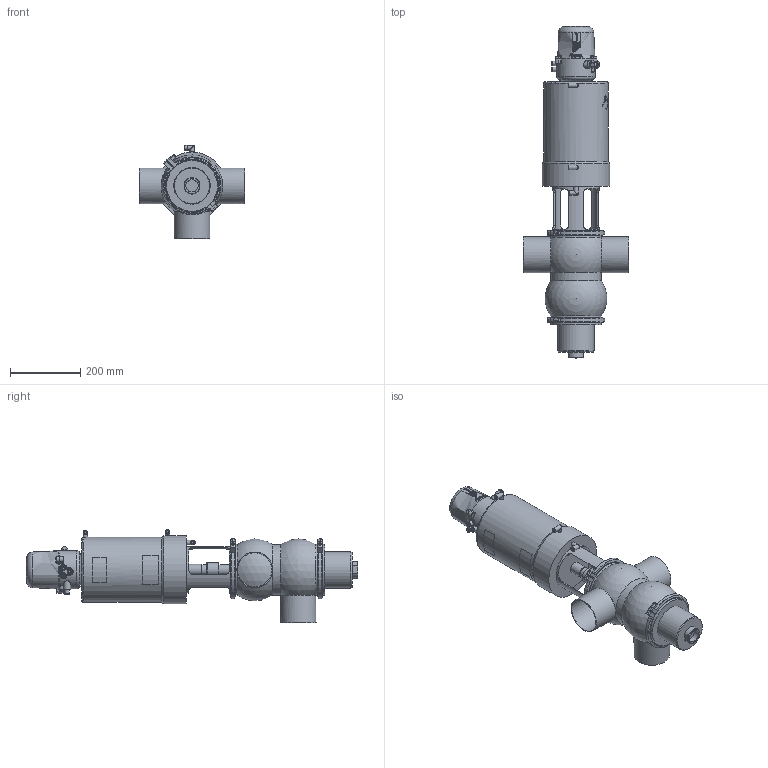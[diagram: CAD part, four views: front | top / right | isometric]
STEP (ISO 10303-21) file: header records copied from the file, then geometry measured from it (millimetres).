
FILE_DESCRIPTION (( 'STEP AP214' ), '1' );
FILE_NAME ('INNOVA P AB-90 W OD 4 & C-TOP S_10.250.16.0011.STEP', '2024-08-09T12:28:44', ( '' ), ( '' ), 'SwSTEP 2.0', 'SolidWorks 2023', '' );
FILE_SCHEMA (( 'AUTOMOTIVE_DESIGN' ));
Length unit declared in the file: millimetre
Products named in the file (7): 10.250.15.0002_Type P T3; INNOVA P AB-90 W OD 4 & C-TOP S_10.250.16.0011; 10.240.15.0001_DN 100; 10.250.15.0003_DN 4"; 10.426.15.0001_C-TOP S - 3 EV; 10.251.15.0003_OD 4"; 10.250.15.0001_OD 4"
Assembly tree (7 placements, depth 2):
  INNOVA P AB-90 W OD 4 & C-TOP S_10.250.16.0011
    10.250.15.0001_OD 4"
    10.250.15.0002_Type P T3
    10.426.15.0001_C-TOP S - 3 EV
    10.251.15.0003_OD 4"
    10.240.15.0001_DN 100  x2
    10.250.15.0003_DN 4"
Bounding box: 300 x 945.6 x 265 mm (x, y, z)
Volume: 16306979.9 mm3; surface area: 879781.1 mm2
Topology: 7 solids, 7 shells, 1207 faces, 2919 edges, 1941 vertices
Faces by surface type: plane 413, cylinder 385, cone 204, bspline 162, torus 33, sphere 10
Full cylindrical faces by diameter (mm): 0.371 x17, 0.512 x16, 0.658 x16, 0.795 x16, 0.94 x15, 1.098 x15, 1.241 x13, 1.382 x13, 1.523 x11, 1.669 x10, 2.201 x1, 4.2 x2, 5 x1, 5.5 x2, 6 x4, 6.15 x3, 8 x5, 10 x1, 10.5 x3, 11 x4, 12.5 x9, 13 x6, 13.5 x2, 17 x3, 20 x2, 22 x2, 30.5 x2, 32 x1, 35 x1, 41 x1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
Entity records: 60161 total; most frequent: CARTESIAN_POINT 28688, ORIENTED_EDGE 4626, DIRECTION 3773, EDGE_CURVE 2313, VERTEX_POINT 1649, EDGE_LOOP 1628, AXIS2_PLACEMENT_3D 1556, FACE_OUTER_BOUND 1376
